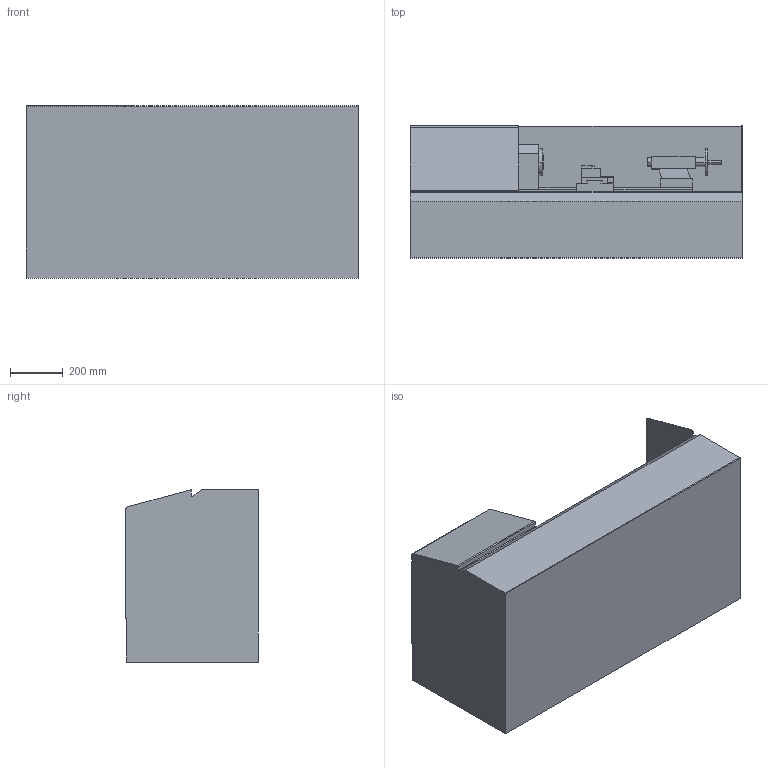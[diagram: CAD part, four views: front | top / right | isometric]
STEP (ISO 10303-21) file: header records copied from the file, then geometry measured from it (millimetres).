
FILE_DESCRIPTION (( 'STEP AP214' ), '1' );
FILE_NAME ('37900_SIMLIFIED.STEP', '2021-01-07T13:33:08', ( '' ), ( '' ), 'SwSTEP 2.0', 'SolidWorks 2016', '' );
FILE_SCHEMA (( 'AUTOMOTIVE_DESIGN' ));
Length unit declared in the file: millimetre
Products named in the file (6): Part14^37900_SIMLIFIED; 50523; Part13; Part12; Part8; 37900_SIMLIFIED
Assembly tree (5 placements, depth 2):
  37900_SIMLIFIED
    Part8
    Part12
    Part13
    50523
    Part14^37900_SIMLIFIED
Bounding box: 1262.5 x 504 x 655.02 mm (x, y, z)
Volume: 267616738.9 mm3; surface area: 4797780.9 mm2
Topology: 5 solids, 5 shells, 256 faces, 680 edges, 451 vertices
Faces by surface type: plane 198, cylinder 58
Entity records: 8142 total; most frequent: CARTESIAN_POINT 1401, ORIENTED_EDGE 1360, DIRECTION 1324, EDGE_CURVE 680, VECTOR 560, LINE 560, VERTEX_POINT 451, AXIS2_PLACEMENT_3D 382
